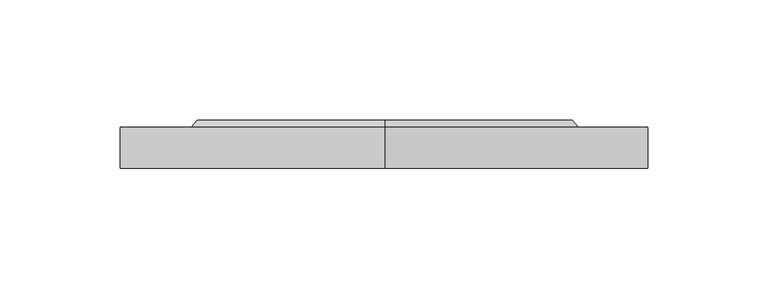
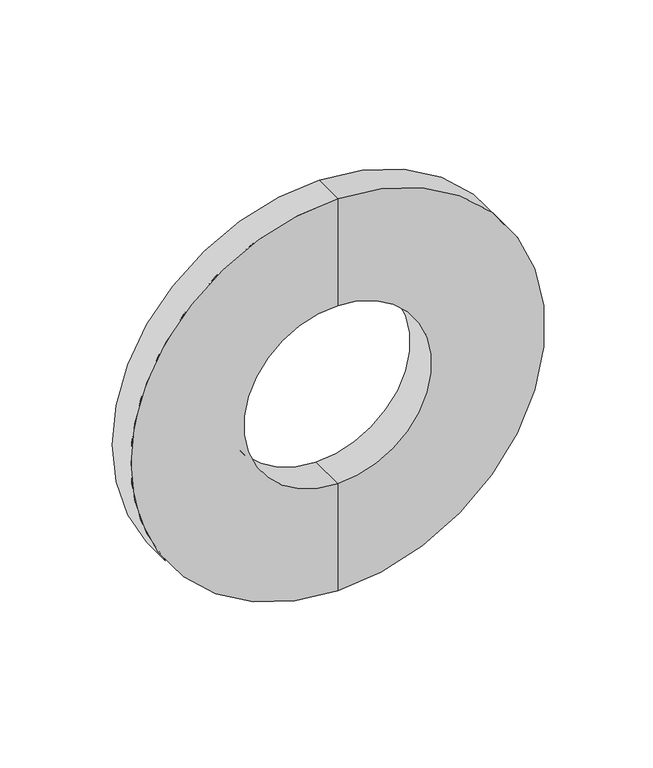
"""IFC4 building model written with IfcOpenShell, lengths in millimetres: pipe fitting geometry, Фланец : Фланец."""

from ifc_helpers import new_model, si_unit, frame, origin, place, context, project, spatial, polyline, circle_curve, source, transform, mapped, element, save
from ifc_brep_helpers import plane_surface, cylinder_surface, revolved_surface, advanced_brep


def pipe_fitting_ef6f4ca0(model_context):
    return source(origin(), model_context, "Body", "AdvancedBrep", [
        advanced_brep(
        [(0.0, 0.0, -110.0), (0.0, 0.0, 110.0), (0.0, 17.0, 110.0), (0.0, 17.0, -110.0), (0.0, 0.0, -50.0), (0.0, 0.0, 50.0), (0.0, 20.0, -50.0), (0.0, 20.0, 50.0), (0.0, 20.0, -78.5), (0.0, 20.0, 78.5), (0.0, 17.0, -81.0), (0.0, 17.0, 81.0)],
        [
            (0, 1, circle_curve(frame((0.0, 0.0, 0.0), z_axis=(0.0, 1.0, 0.0), x_axis=(0.0, 0.0, 1.0)), 110.0)),
            (1, 2),
            (2, 3, circle_curve(frame((0.0, 17.0, 0.0), z_axis=(0.0, -1.0, 0.0), x_axis=(0.0, 0.0, 1.0)), 110.0)),
            (3, 0),
            (1, 0, circle_curve(frame((0.0, 0.0, 0.0), z_axis=(0.0, 1.0, 0.0), x_axis=(0.0, 0.0, 1.0)), 110.0)),
            (3, 2, circle_curve(frame((0.0, 17.0, 0.0), z_axis=(0.0, -1.0, 0.0), x_axis=(0.0, 0.0, 1.0)), 110.0)),
            (4, 5, circle_curve(frame((0.0, 0.0, 0.0), z_axis=(0.0, 1.0, 0.0), x_axis=(0.0, 0.0, 1.0)), 50.0)),
            (5, 1),
            (0, 4),
            (5, 4, circle_curve(frame((0.0, 0.0, 0.0), z_axis=(0.0, 1.0, 0.0), x_axis=(0.0, 0.0, 1.0)), 50.0)),
            (6, 7, circle_curve(frame((0.0, 20.0, 0.0), z_axis=(0.0, 1.0, 0.0), x_axis=(0.0, 0.0, 1.0)), 50.0)),
            (7, 5),
            (4, 6),
            (7, 6, circle_curve(frame((0.0, 20.0, 0.0), z_axis=(0.0, 1.0, 0.0), x_axis=(0.0, 0.0, 1.0)), 50.0)),
            (8, 9, circle_curve(frame((0.0, 20.0, 0.0), z_axis=(0.0, 1.0, 0.0), x_axis=(0.0, 0.0, 1.0)), 78.5)),
            (9, 7),
            (6, 8),
            (9, 8, circle_curve(frame((0.0, 20.0, 0.0), z_axis=(0.0, 1.0, 0.0), x_axis=(0.0, 0.0, 1.0)), 78.5)),
            (10, 11, circle_curve(frame((0.0, 17.0, 0.0), z_axis=(0.0, 1.0, 0.0), x_axis=(0.0, 0.0, 1.0)), 81.0)),
            (11, 9),
            (8, 10),
            (11, 10, circle_curve(frame((0.0, 17.0, 0.0), z_axis=(0.0, 1.0, 0.0), x_axis=(0.0, 0.0, 1.0)), 81.0)),
            (2, 11),
            (10, 3),
        ],
        [
            cylinder_surface(frame((0.0, -60.0, 0.0), z_axis=(0.0, -1.0, 0.0), x_axis=(0.0, 0.0, 1.0)), 110.0),
            plane_surface(frame((0.0, 0.0, 0.0), z_axis=(0.0, -1.0, 0.0), x_axis=(0.0, 0.0, 1.0))),
            revolved_surface(polyline([(0.0, 0.0, 50.0), (0.0, 20.0, 50.0)]), (0.0, -60.0, 0.0), (0.0, -1.0, 0.0)),
            plane_surface(frame((0.0, 20.0, 0.0), z_axis=(0.0, 1.0, 0.0), x_axis=(0.0, 0.0, 1.0))),
            revolved_surface(polyline([(0.0, 20.0, 78.5), (0.0, 17.0, 81.0)]), (0.0, -60.0, 0.0), (0.0, -1.0, 0.0)),
            plane_surface(frame((0.0, 17.0, 0.0), z_axis=(0.0, 1.0, 0.0), x_axis=(0.0, 0.0, 1.0))),
        ],
        [
            (0, [[1, 2, 3, 4]]),
            (0, [[5, -4, 6, -2]]),
            (1, [[7, 8, -1, 9]]),
            (1, [[10, -9, -5, -8]]),
            (2, [[11, 12, -7, 13]]),
            (2, [[14, -13, -10, -12]]),
            (3, [[15, 16, -11, 17]]),
            (3, [[18, -17, -14, -16]]),
            (4, [[19, 20, -15, 21]]),
            (4, [[22, -21, -18, -20]]),
            (5, [[-3, 23, -19, 24]]),
            (5, [[-6, -24, -22, -23]]),
        ],
    ),
    ])


if __name__ == "__main__":
    model = new_model("IFC4")
    model_context = context("Model", 3, world=origin())
    ifc_project = project(units=[si_unit("LENGTHUNIT", "METRE", prefix="MILLI")], contexts=[model_context])
    site = spatial("IfcSite", under=ifc_project)
    building = spatial("IfcBuilding", under=site)
    placement = place(None, origin())
    pipe_fitting_shape = pipe_fitting_ef6f4ca0(model_context)
    element("IfcPipeFitting", 1, ObjectType="Фланец : Фланец", at=placement, inside=building, context=model_context, shape_type="MappedRepresentation", body=[
        mapped(pipe_fitting_shape, transform((0.0, 0.0, 0.0), x_axis=(1.0, 0.0, 0.0), y_axis=(0.0, 1.0, 0.0), z_axis=(0.0, 0.0, 1.0))),
    ])
    save(model, "model.ifc")
